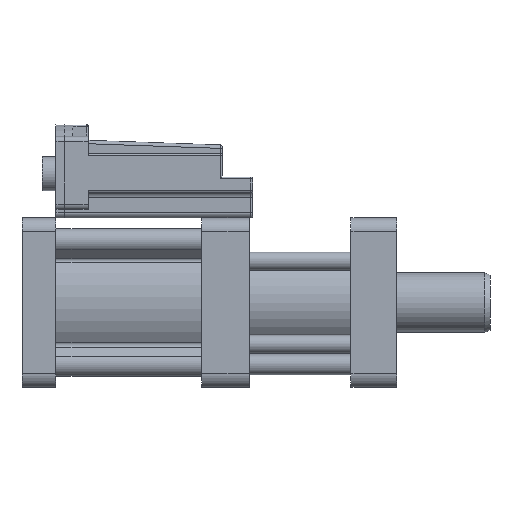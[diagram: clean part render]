
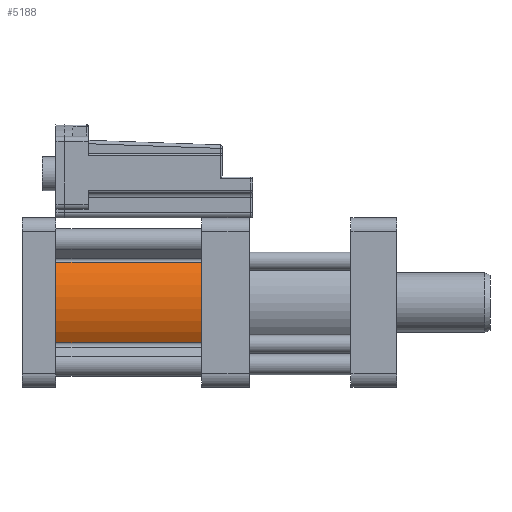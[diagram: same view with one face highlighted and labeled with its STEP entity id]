
A CAD part, left-side view. The second image highlights one B-rep face of the part: STEP entity #5188.
In plain terms, the highlighted cylindrical face has radius 43 mm (diameter 86 mm), a partial arc.
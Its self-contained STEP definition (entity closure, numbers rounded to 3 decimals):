
#314 = LINE ( 'NONE', #2253, #9874 ) ;
#812 = DIRECTION ( 'NONE',  ( 0., 1., 0. ) ) ;
#1030 = EDGE_CURVE ( 'NONE', #3658, #12339, #2984, .T. ) ;
#1587 = VERTEX_POINT ( 'NONE', #2544 ) ;
#2253 = CARTESIAN_POINT ( 'NONE',  ( -35.872, 128.037, -26.29 ) ) ;
#2544 = CARTESIAN_POINT ( 'NONE',  ( -35.872, -81., -73.71 ) ) ;
#2866 = CARTESIAN_POINT ( 'NONE',  ( -35.872, 5., -26.29 ) ) ;
#2984 = CIRCLE ( 'NONE', #14429, 43. ) ;
#3130 = CIRCLE ( 'NONE', #7587, 43. ) ;
#3510 = ORIENTED_EDGE ( 'NONE', *, *, #9308, .T. ) ;
#3564 = CARTESIAN_POINT ( 'NONE',  ( 0., 5., -50. ) ) ;
#3590 = CARTESIAN_POINT ( 'NONE',  ( 0., 128.037, -50. ) ) ;
#3658 = VERTEX_POINT ( 'NONE', #3869 ) ;
#3869 = CARTESIAN_POINT ( 'NONE',  ( -35.872, 5., -73.71 ) ) ;
#4770 = DIRECTION ( 'NONE',  ( 0., -1., 0. ) ) ;
#4831 = DIRECTION ( 'NONE',  ( 0., 0., 1. ) ) ;
#5188 = ADVANCED_FACE ( 'NONE', ( #9454 ), #12370, .T. ) ;
#5254 = ORIENTED_EDGE ( 'NONE', *, *, #9799, .F. ) ;
#6298 = ORIENTED_EDGE ( 'NONE', *, *, #1030, .F. ) ;
#7587 = AXIS2_PLACEMENT_3D ( 'NONE', #8296, #812, #9551 ) ;
#8296 = CARTESIAN_POINT ( 'NONE',  ( 0., -81., -50. ) ) ;
#9249 = VERTEX_POINT ( 'NONE', #10805 ) ;
#9308 = EDGE_CURVE ( 'NONE', #3658, #1587, #12809, .T. ) ;
#9454 = FACE_OUTER_BOUND ( 'NONE', #9628, .T. ) ;
#9551 = DIRECTION ( 'NONE',  ( 0., 0., 1. ) ) ;
#9628 = EDGE_LOOP ( 'NONE', ( #6298, #3510, #10722, #5254 ) ) ;
#9799 = EDGE_CURVE ( 'NONE', #12339, #9249, #314, .T. ) ;
#9874 = VECTOR ( 'NONE', #10976, 1000. ) ;
#10229 = AXIS2_PLACEMENT_3D ( 'NONE', #3590, #12300, #11049 ) ;
#10722 = ORIENTED_EDGE ( 'NONE', *, *, #14634, .T. ) ;
#10805 = CARTESIAN_POINT ( 'NONE',  ( -35.872, -81., -26.29 ) ) ;
#10976 = DIRECTION ( 'NONE',  ( 0., -1., 0. ) ) ;
#11049 = DIRECTION ( 'NONE',  ( 0., 0., -1. ) ) ;
#12276 = DIRECTION ( 'NONE',  ( 0., 1., 0. ) ) ;
#12300 = DIRECTION ( 'NONE',  ( 0., -1., 0. ) ) ;
#12339 = VERTEX_POINT ( 'NONE', #2866 ) ;
#12370 = CYLINDRICAL_SURFACE ( 'NONE', #10229, 43. ) ;
#12809 = LINE ( 'NONE', #14732, #16145 ) ;
#14429 = AXIS2_PLACEMENT_3D ( 'NONE', #3564, #12276, #4831 ) ;
#14634 = EDGE_CURVE ( 'NONE', #1587, #9249, #3130, .T. ) ;
#14732 = CARTESIAN_POINT ( 'NONE',  ( -35.872, 128.037, -73.71 ) ) ;
#16145 = VECTOR ( 'NONE', #4770, 1000. ) ;
